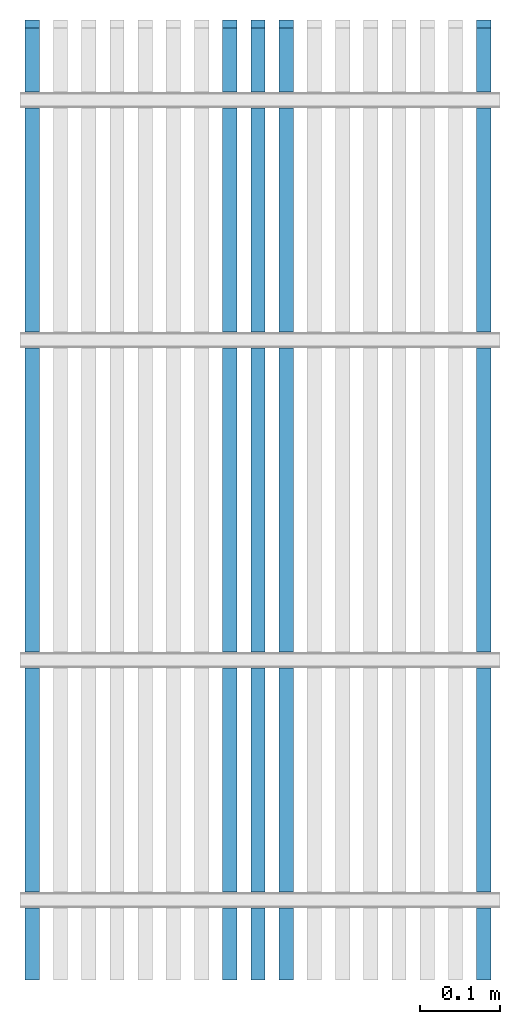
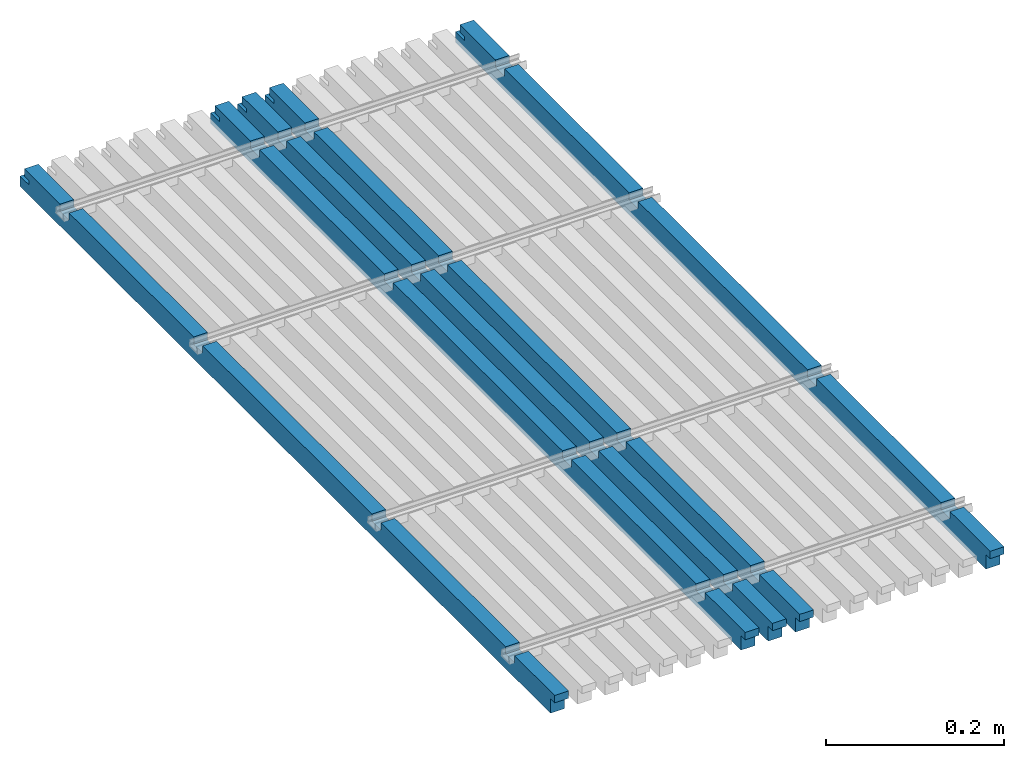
# One storey, part 3 of 3: 5 walls.
"""IFC2X3 building model written with IfcOpenShell, lengths in millimetres."""

from ifc_helpers import new_model, entity, si_unit, converted_unit, money_unit, direction, frame, origin_with_axes, place, context, subcontext, project, spatial, polyline, outline, extrude, boolean, faceted_brep, material, layer, layer_set, layer_usage, type_object, element, save


model = new_model("IFC2X3")

# Units and contexts
model_context = context("Model", 3, precision=1e-05, world=origin_with_axes(), true_north=direction((0.0, 1.0)))
body_context = subcontext(model_context, "Body", "Model", "MODEL_VIEW")
ifc_project = project(units=[si_unit("LENGTHUNIT", "METRE", prefix="MILLI"), si_unit("AREAUNIT", "SQUARE_METRE"), si_unit("VOLUMEUNIT", "CUBIC_METRE"), converted_unit("PLANEANGLEUNIT", "DEGREE", entity("IfcPlaneAngleMeasure", 0.0174532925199), si_unit("PLANEANGLEUNIT", "RADIAN"), dimensions=[0, 0, 0, 0, 0, 0, 0]), si_unit("SOLIDANGLEUNIT", "STERADIAN"), money_unit("AUD"), si_unit("TIMEUNIT", "SECOND"), si_unit("MASSUNIT", "GRAM"), si_unit("THERMODYNAMICTEMPERATUREUNIT", "DEGREE_CELSIUS"), si_unit("LUMINOUSINTENSITYUNIT", "LUMEN")], contexts=[model_context])

# Site, building, storey
site_placement = place(None, origin_with_axes())
site = spatial("IfcSite", under=ifc_project, at=site_placement, Name="Site", CompositionType="ELEMENT")
building_placement = place(site_placement, origin_with_axes())
building = spatial("IfcBuilding", under=site, at=building_placement, Name="Building", CompositionType="ELEMENT")
storey_placement = place(building_placement, origin_with_axes())
storey = spatial("IfcBuildingStorey", under=building, at=storey_placement, Name="GROUND", CompositionType="ELEMENT", Elevation=0.0)

# Walls
ifc_material = material(Name="Timber")
ifc_layer = layer(ifc_material, 18.0, ventilated="UNKNOWN")
ifc_layer_set = layer_set([ifc_layer], Name="Timber 18")
ifc_layer_usage_1 = layer_usage(ifc_layer_set, "AXIS2", "POSITIVE", 0.0)
wall_type = type_object("IfcWallType", Name="Timber 18", PredefinedType="NOTDEFINED")
wall_1_placement = place(storey_placement, frame((26.91, 0.0, 0.0), z_axis=(0.0, 0.0, 1.0), x_axis=(0.0, 1.0, 0.0)))
element("IfcWallStandardCase", 1, at=wall_1_placement, inside=storey, type_object=wall_type, material=ifc_layer_usage_1, Name="WALL-01", context=body_context, shape_type="CSG", body=[
    boolean("DIFFERENCE", boolean("DIFFERENCE", boolean("DIFFERENCE", boolean("DIFFERENCE", boolean("DIFFERENCE", boolean("DIFFERENCE", extrude(outline(polyline([(0.0, 0.0), (1200.0, 0.0), (1200.0, 18.0), (0.0, 18.0), (0.0, 0.0)])), origin_with_axes(), (0.0, 0.0, 1.0), 30.0), faceted_brep([(9.5, 0.0, 20.0), (0.0, 0.0, 20.0), (0.0, 0.0, 0.0), (9.5, 0.0, 0.0), (9.5, 18.0, 20.0), (0.0, 18.0, 20.0), (0.0, 18.0, 0.0), (9.5, 18.0, 0.0)], [[[0, 1, 2, 3]], [[1, 0, 4, 5]], [[1, 5, 6, 2]], [[7, 3, 2, 6]], [[0, 3, 7, 4]], [[4, 7, 6, 5]]])), faceted_brep([(90.0, 0.0, 20.0), (110.0, 0.0, 20.0), (110.0, 0.0, 30.0), (90.0, 0.0, 30.0), (90.0, 18.0, 20.0), (110.0, 18.0, 20.0), (110.0, 18.0, 30.0), (90.0, 18.0, 30.0)], [[[0, 1, 2, 3]], [[1, 0, 4, 5]], [[6, 2, 1, 5]], [[7, 3, 2, 6]], [[0, 3, 7, 4]], [[4, 7, 6, 5]]])), faceted_brep([(390.0, 0.0, 20.0), (410.0, 0.0, 20.0), (410.0, 0.0, 30.0), (390.0, 0.0, 30.0), (390.0, 18.0, 20.0), (410.0, 18.0, 20.0), (410.0, 18.0, 30.0), (390.0, 18.0, 30.0)], [[[0, 1, 2, 3]], [[1, 0, 4, 5]], [[6, 2, 1, 5]], [[7, 3, 2, 6]], [[0, 3, 7, 4]], [[4, 7, 6, 5]]])), faceted_brep([(790.0, 0.0, 20.0), (810.0, 0.0, 20.0), (810.0, 0.0, 30.0), (790.0, 0.0, 30.0), (790.0, 18.0, 20.0), (810.0, 18.0, 20.0), (810.0, 18.0, 30.0), (790.0, 18.0, 30.0)], [[[0, 1, 2, 3]], [[1, 0, 4, 5]], [[6, 2, 1, 5]], [[7, 3, 2, 6]], [[0, 3, 7, 4]], [[4, 7, 6, 5]]])), faceted_brep([(1090.0, 0.0, 20.0), (1110.0, 0.0, 20.0), (1110.0, 0.0, 30.0), (1090.0, 0.0, 30.0), (1090.0, 18.0, 20.0), (1110.0, 18.0, 20.0), (1110.0, 18.0, 30.0), (1090.0, 18.0, 30.0)], [[[0, 1, 2, 3]], [[1, 0, 4, 5]], [[6, 2, 1, 5]], [[7, 3, 2, 6]], [[0, 3, 7, 4]], [[4, 7, 6, 5]]])), faceted_brep([(1180.0, 0.0, 19.5), (1180.0, 0.0, 14.0), (1200.0, 0.0, 14.0), (1200.0, 0.0, 30.0), (1190.0, 0.0, 30.0), (1190.0, 0.0, 19.5), (1180.0, 18.0, 19.5), (1180.0, 18.0, 14.0), (1200.0, 18.0, 14.0), (1200.0, 18.0, 30.0), (1190.0, 18.0, 30.0), (1190.0, 18.0, 19.5)], [[[0, 1, 2, 3, 4, 5]], [[1, 0, 6, 7]], [[8, 2, 1, 7]], [[2, 8, 9, 3]], [[10, 4, 3, 9]], [[5, 4, 10, 11]], [[0, 5, 11, 6]], [[11, 10, 9, 8, 7, 6]]])),
])
ifc_layer_usage_2 = layer_usage(ifc_layer_set, "AXIS2", "POSITIVE", 0.0)
wall_2_placement = place(storey_placement, frame((344.26125, 0.0, 0.0), z_axis=(0.0, 0.0, 1.0), x_axis=(0.0, 1.0, 0.0)))
element("IfcWallStandardCase", 2, at=wall_2_placement, inside=storey, type_object=wall_type, material=ifc_layer_usage_2, Name="WALL-01", context=body_context, shape_type="CSG", body=[
    boolean("DIFFERENCE", boolean("DIFFERENCE", boolean("DIFFERENCE", boolean("DIFFERENCE", boolean("DIFFERENCE", boolean("DIFFERENCE", extrude(outline(polyline([(0.0, 0.0), (1200.0, 0.0), (1200.0, 18.0), (0.0, 18.0), (0.0, 0.0)])), origin_with_axes(), (0.0, 0.0, 1.0), 30.0), faceted_brep([(9.5, 0.0, 20.0), (0.0, 0.0, 20.0), (0.0, 0.0, 0.0), (9.5, 0.0, 0.0), (9.5, 18.0, 20.0), (0.0, 18.0, 20.0), (0.0, 18.0, 0.0), (9.5, 18.0, 0.0)], [[[0, 1, 2, 3]], [[1, 0, 4, 5]], [[1, 5, 6, 2]], [[7, 3, 2, 6]], [[0, 3, 7, 4]], [[4, 7, 6, 5]]])), faceted_brep([(90.0, 0.0, 20.0), (110.0, 0.0, 20.0), (110.0, 0.0, 30.0), (90.0, 0.0, 30.0), (90.0, 18.0, 20.0), (110.0, 18.0, 20.0), (110.0, 18.0, 30.0), (90.0, 18.0, 30.0)], [[[0, 1, 2, 3]], [[1, 0, 4, 5]], [[6, 2, 1, 5]], [[7, 3, 2, 6]], [[0, 3, 7, 4]], [[4, 7, 6, 5]]])), faceted_brep([(390.0, 0.0, 20.0), (410.0, 0.0, 20.0), (410.0, 0.0, 30.0), (390.0, 0.0, 30.0), (390.0, 18.0, 20.0), (410.0, 18.0, 20.0), (410.0, 18.0, 30.0), (390.0, 18.0, 30.0)], [[[0, 1, 2, 3]], [[1, 0, 4, 5]], [[6, 2, 1, 5]], [[7, 3, 2, 6]], [[0, 3, 7, 4]], [[4, 7, 6, 5]]])), faceted_brep([(790.0, 0.0, 20.0), (810.0, 0.0, 20.0), (810.0, 0.0, 30.0), (790.0, 0.0, 30.0), (790.0, 18.0, 20.0), (810.0, 18.0, 20.0), (810.0, 18.0, 30.0), (790.0, 18.0, 30.0)], [[[0, 1, 2, 3]], [[1, 0, 4, 5]], [[6, 2, 1, 5]], [[7, 3, 2, 6]], [[0, 3, 7, 4]], [[4, 7, 6, 5]]])), faceted_brep([(1090.0, 0.0, 20.0), (1110.0, 0.0, 20.0), (1110.0, 0.0, 30.0), (1090.0, 0.0, 30.0), (1090.0, 18.0, 20.0), (1110.0, 18.0, 20.0), (1110.0, 18.0, 30.0), (1090.0, 18.0, 30.0)], [[[0, 1, 2, 3]], [[1, 0, 4, 5]], [[6, 2, 1, 5]], [[7, 3, 2, 6]], [[0, 3, 7, 4]], [[4, 7, 6, 5]]])), faceted_brep([(1180.0, 0.0, 19.5), (1180.0, 0.0, 14.0), (1200.0, 0.0, 14.0), (1200.0, 0.0, 30.0), (1190.0, 0.0, 30.0), (1190.0, 0.0, 19.5), (1180.0, 18.0, 19.5), (1180.0, 18.0, 14.0), (1200.0, 18.0, 14.0), (1200.0, 18.0, 30.0), (1190.0, 18.0, 30.0), (1190.0, 18.0, 19.5)], [[[0, 1, 2, 3, 4, 5]], [[1, 0, 6, 7]], [[8, 2, 1, 7]], [[2, 8, 9, 3]], [[10, 4, 3, 9]], [[5, 4, 10, 11]], [[0, 5, 11, 6]], [[11, 10, 9, 8, 7, 6]]])),
])
ifc_layer_usage_3 = layer_usage(ifc_layer_set, "AXIS2", "POSITIVE", 0.0)
wall_3_placement = place(storey_placement, frame((309.0, 0.0, 0.0), z_axis=(0.0, 0.0, 1.0), x_axis=(0.0, 1.0, 0.0)))
element("IfcWallStandardCase", 3, at=wall_3_placement, inside=storey, type_object=wall_type, material=ifc_layer_usage_3, Name="WALL-01", context=body_context, shape_type="CSG", body=[
    boolean("DIFFERENCE", boolean("DIFFERENCE", boolean("DIFFERENCE", boolean("DIFFERENCE", boolean("DIFFERENCE", boolean("DIFFERENCE", extrude(outline(polyline([(0.0, 0.0), (1200.0, 0.0), (1200.0, 18.0), (0.0, 18.0), (0.0, 0.0)])), origin_with_axes(), (0.0, 0.0, 1.0), 30.0), faceted_brep([(9.5, 0.0, 20.0), (0.0, 0.0, 20.0), (0.0, 0.0, 0.0), (9.5, 0.0, 0.0), (9.5, 18.0, 20.0), (0.0, 18.0, 20.0), (0.0, 18.0, 0.0), (9.5, 18.0, 0.0)], [[[0, 1, 2, 3]], [[1, 0, 4, 5]], [[1, 5, 6, 2]], [[7, 3, 2, 6]], [[0, 3, 7, 4]], [[4, 7, 6, 5]]])), faceted_brep([(90.0, 0.0, 20.0), (110.0, 0.0, 20.0), (110.0, 0.0, 30.0), (90.0, 0.0, 30.0), (90.0, 18.0, 20.0), (110.0, 18.0, 20.0), (110.0, 18.0, 30.0), (90.0, 18.0, 30.0)], [[[0, 1, 2, 3]], [[1, 0, 4, 5]], [[6, 2, 1, 5]], [[7, 3, 2, 6]], [[0, 3, 7, 4]], [[4, 7, 6, 5]]])), faceted_brep([(390.0, 0.0, 20.0), (410.0, 0.0, 20.0), (410.0, 0.0, 30.0), (390.0, 0.0, 30.0), (390.0, 18.0, 20.0), (410.0, 18.0, 20.0), (410.0, 18.0, 30.0), (390.0, 18.0, 30.0)], [[[0, 1, 2, 3]], [[1, 0, 4, 5]], [[6, 2, 1, 5]], [[7, 3, 2, 6]], [[0, 3, 7, 4]], [[4, 7, 6, 5]]])), faceted_brep([(790.0, 0.0, 20.0), (810.0, 0.0, 20.0), (810.0, 0.0, 30.0), (790.0, 0.0, 30.0), (790.0, 18.0, 20.0), (810.0, 18.0, 20.0), (810.0, 18.0, 30.0), (790.0, 18.0, 30.0)], [[[0, 1, 2, 3]], [[1, 0, 4, 5]], [[6, 2, 1, 5]], [[7, 3, 2, 6]], [[0, 3, 7, 4]], [[4, 7, 6, 5]]])), faceted_brep([(1090.0, 0.0, 20.0), (1110.0, 0.0, 20.0), (1110.0, 0.0, 30.0), (1090.0, 0.0, 30.0), (1090.0, 18.0, 20.0), (1110.0, 18.0, 20.0), (1110.0, 18.0, 30.0), (1090.0, 18.0, 30.0)], [[[0, 1, 2, 3]], [[1, 0, 4, 5]], [[6, 2, 1, 5]], [[7, 3, 2, 6]], [[0, 3, 7, 4]], [[4, 7, 6, 5]]])), faceted_brep([(1180.0, 0.0, 19.5), (1180.0, 0.0, 14.0), (1200.0, 0.0, 14.0), (1200.0, 0.0, 30.0), (1190.0, 0.0, 30.0), (1190.0, 0.0, 19.5), (1180.0, 18.0, 19.5), (1180.0, 18.0, 14.0), (1200.0, 18.0, 14.0), (1200.0, 18.0, 30.0), (1190.0, 18.0, 30.0), (1190.0, 18.0, 19.5)], [[[0, 1, 2, 3, 4, 5]], [[1, 0, 6, 7]], [[8, 2, 1, 7]], [[2, 8, 9, 3]], [[10, 4, 3, 9]], [[5, 4, 10, 11]], [[0, 5, 11, 6]], [[11, 10, 9, 8, 7, 6]]])),
])
ifc_layer_usage_4 = layer_usage(ifc_layer_set, "AXIS2", "POSITIVE", 0.0)
wall_4_placement = place(storey_placement, frame((273.73875, 0.0, 0.0), z_axis=(0.0, 0.0, 1.0), x_axis=(0.0, 1.0, 0.0)))
element("IfcWallStandardCase", 4, at=wall_4_placement, inside=storey, type_object=wall_type, material=ifc_layer_usage_4, Name="WALL-01", context=body_context, shape_type="CSG", body=[
    boolean("DIFFERENCE", boolean("DIFFERENCE", boolean("DIFFERENCE", boolean("DIFFERENCE", boolean("DIFFERENCE", boolean("DIFFERENCE", extrude(outline(polyline([(0.0, 0.0), (1200.0, 0.0), (1200.0, 18.0), (0.0, 18.0), (0.0, 0.0)])), origin_with_axes(), (0.0, 0.0, 1.0), 30.0), faceted_brep([(9.5, 0.0, 20.0), (0.0, 0.0, 20.0), (0.0, 0.0, 0.0), (9.5, 0.0, 0.0), (9.5, 18.0, 20.0), (0.0, 18.0, 20.0), (0.0, 18.0, 0.0), (9.5, 18.0, 0.0)], [[[0, 1, 2, 3]], [[1, 0, 4, 5]], [[1, 5, 6, 2]], [[7, 3, 2, 6]], [[0, 3, 7, 4]], [[4, 7, 6, 5]]])), faceted_brep([(90.0, 0.0, 20.0), (110.0, 0.0, 20.0), (110.0, 0.0, 30.0), (90.0, 0.0, 30.0), (90.0, 18.0, 20.0), (110.0, 18.0, 20.0), (110.0, 18.0, 30.0), (90.0, 18.0, 30.0)], [[[0, 1, 2, 3]], [[1, 0, 4, 5]], [[6, 2, 1, 5]], [[7, 3, 2, 6]], [[0, 3, 7, 4]], [[4, 7, 6, 5]]])), faceted_brep([(390.0, 0.0, 20.0), (410.0, 0.0, 20.0), (410.0, 0.0, 30.0), (390.0, 0.0, 30.0), (390.0, 18.0, 20.0), (410.0, 18.0, 20.0), (410.0, 18.0, 30.0), (390.0, 18.0, 30.0)], [[[0, 1, 2, 3]], [[1, 0, 4, 5]], [[6, 2, 1, 5]], [[7, 3, 2, 6]], [[0, 3, 7, 4]], [[4, 7, 6, 5]]])), faceted_brep([(790.0, 0.0, 20.0), (810.0, 0.0, 20.0), (810.0, 0.0, 30.0), (790.0, 0.0, 30.0), (790.0, 18.0, 20.0), (810.0, 18.0, 20.0), (810.0, 18.0, 30.0), (790.0, 18.0, 30.0)], [[[0, 1, 2, 3]], [[1, 0, 4, 5]], [[6, 2, 1, 5]], [[7, 3, 2, 6]], [[0, 3, 7, 4]], [[4, 7, 6, 5]]])), faceted_brep([(1090.0, 0.0, 20.0), (1110.0, 0.0, 20.0), (1110.0, 0.0, 30.0), (1090.0, 0.0, 30.0), (1090.0, 18.0, 20.0), (1110.0, 18.0, 20.0), (1110.0, 18.0, 30.0), (1090.0, 18.0, 30.0)], [[[0, 1, 2, 3]], [[1, 0, 4, 5]], [[6, 2, 1, 5]], [[7, 3, 2, 6]], [[0, 3, 7, 4]], [[4, 7, 6, 5]]])), faceted_brep([(1180.0, 0.0, 19.5), (1180.0, 0.0, 14.0), (1200.0, 0.0, 14.0), (1200.0, 0.0, 30.0), (1190.0, 0.0, 30.0), (1190.0, 0.0, 19.5), (1180.0, 18.0, 19.5), (1180.0, 18.0, 14.0), (1200.0, 18.0, 14.0), (1200.0, 18.0, 30.0), (1190.0, 18.0, 30.0), (1190.0, 18.0, 19.5)], [[[0, 1, 2, 3, 4, 5]], [[1, 0, 6, 7]], [[8, 2, 1, 7]], [[2, 8, 9, 3]], [[10, 4, 3, 9]], [[5, 4, 10, 11]], [[0, 5, 11, 6]], [[11, 10, 9, 8, 7, 6]]])),
])
ifc_layer_usage_5 = layer_usage(ifc_layer_set, "AXIS2", "POSITIVE", 0.0)
wall_5_placement = place(storey_placement, frame((591.09, 0.0, 0.0), z_axis=(0.0, 0.0, 1.0), x_axis=(0.0, 1.0, 0.0)))
element("IfcWallStandardCase", 5, at=wall_5_placement, inside=storey, type_object=wall_type, material=ifc_layer_usage_5, Name="WALL-01", context=body_context, shape_type="CSG", body=[
    boolean("DIFFERENCE", boolean("DIFFERENCE", boolean("DIFFERENCE", boolean("DIFFERENCE", boolean("DIFFERENCE", boolean("DIFFERENCE", extrude(outline(polyline([(0.0, 0.0), (1200.0, 0.0), (1200.0, 18.0), (0.0, 18.0), (0.0, 0.0)])), origin_with_axes(), (0.0, 0.0, 1.0), 30.0), faceted_brep([(9.5, 0.0, 20.0), (0.0, 0.0, 20.0), (0.0, 0.0, 0.0), (9.5, 0.0, 0.0), (9.5, 18.0, 20.0), (0.0, 18.0, 20.0), (0.0, 18.0, 0.0), (9.5, 18.0, 0.0)], [[[0, 1, 2, 3]], [[1, 0, 4, 5]], [[1, 5, 6, 2]], [[7, 3, 2, 6]], [[0, 3, 7, 4]], [[4, 7, 6, 5]]])), faceted_brep([(90.0, 0.0, 20.0), (110.0, 0.0, 20.0), (110.0, 0.0, 30.0), (90.0, 0.0, 30.0), (90.0, 18.0, 20.0), (110.0, 18.0, 20.0), (110.0, 18.0, 30.0), (90.0, 18.0, 30.0)], [[[0, 1, 2, 3]], [[1, 0, 4, 5]], [[6, 2, 1, 5]], [[7, 3, 2, 6]], [[0, 3, 7, 4]], [[4, 7, 6, 5]]])), faceted_brep([(390.0, 0.0, 20.0), (410.0, 0.0, 20.0), (410.0, 0.0, 30.0), (390.0, 0.0, 30.0), (390.0, 18.0, 20.0), (410.0, 18.0, 20.0), (410.0, 18.0, 30.0), (390.0, 18.0, 30.0)], [[[0, 1, 2, 3]], [[1, 0, 4, 5]], [[6, 2, 1, 5]], [[7, 3, 2, 6]], [[0, 3, 7, 4]], [[4, 7, 6, 5]]])), faceted_brep([(790.0, 0.0, 20.0), (810.0, 0.0, 20.0), (810.0, 0.0, 30.0), (790.0, 0.0, 30.0), (790.0, 18.0, 20.0), (810.0, 18.0, 20.0), (810.0, 18.0, 30.0), (790.0, 18.0, 30.0)], [[[0, 1, 2, 3]], [[1, 0, 4, 5]], [[6, 2, 1, 5]], [[7, 3, 2, 6]], [[0, 3, 7, 4]], [[4, 7, 6, 5]]])), faceted_brep([(1090.0, 0.0, 20.0), (1110.0, 0.0, 20.0), (1110.0, 0.0, 30.0), (1090.0, 0.0, 30.0), (1090.0, 18.0, 20.0), (1110.0, 18.0, 20.0), (1110.0, 18.0, 30.0), (1090.0, 18.0, 30.0)], [[[0, 1, 2, 3]], [[1, 0, 4, 5]], [[6, 2, 1, 5]], [[7, 3, 2, 6]], [[0, 3, 7, 4]], [[4, 7, 6, 5]]])), faceted_brep([(1180.0, 0.0, 19.5), (1180.0, 0.0, 14.0), (1200.0, 0.0, 14.0), (1200.0, 0.0, 30.0), (1190.0, 0.0, 30.0), (1190.0, 0.0, 19.5), (1180.0, 18.0, 19.5), (1180.0, 18.0, 14.0), (1200.0, 18.0, 14.0), (1200.0, 18.0, 30.0), (1190.0, 18.0, 30.0), (1190.0, 18.0, 19.5)], [[[0, 1, 2, 3, 4, 5]], [[1, 0, 6, 7]], [[8, 2, 1, 7]], [[2, 8, 9, 3]], [[10, 4, 3, 9]], [[5, 4, 10, 11]], [[0, 5, 11, 6]], [[11, 10, 9, 8, 7, 6]]])),
])

save(model, "model.ifc")
